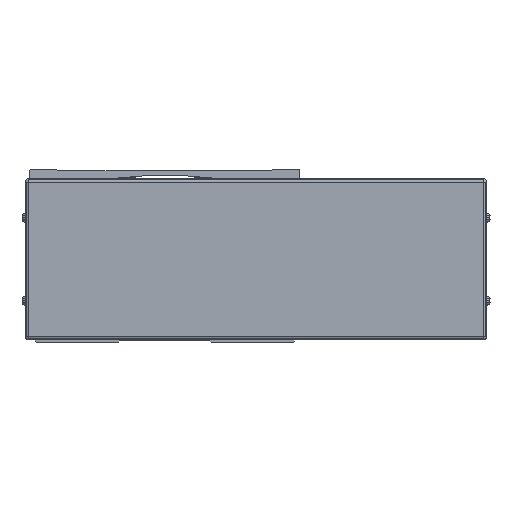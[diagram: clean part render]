
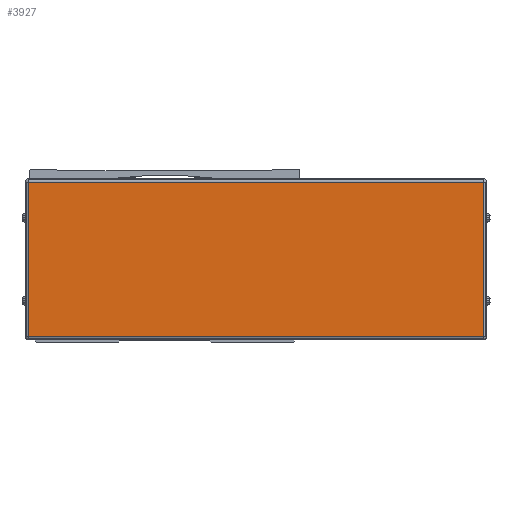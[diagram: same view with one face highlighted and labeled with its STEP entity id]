
A CAD part, front view. The second image highlights one B-rep face of the part: STEP entity #3927.
In plain terms, the highlighted planar face has unit normal (0, -1, 0).
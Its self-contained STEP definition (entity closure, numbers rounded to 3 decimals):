
#3927=ADVANCED_FACE('',(#9159),#9160,.T.);
#9159=FACE_OUTER_BOUND('',#16924,.T.);
#9160=PLANE('',#16925);
#16924=EDGE_LOOP('',(#29902,#29903,#29904,#29905));
#16925=AXIS2_PLACEMENT_3D('',#29906,#29907,#29908);
#29902=ORIENTED_EDGE('',*,*,#46314,.F.);
#29903=ORIENTED_EDGE('',*,*,#42057,.F.);
#29904=ORIENTED_EDGE('',*,*,#46315,.F.);
#29905=ORIENTED_EDGE('',*,*,#46316,.F.);
#29906=CARTESIAN_POINT('',(-545.,-222.778,-2.));
#29907=DIRECTION('',(0.,-1.0,0.));
#29908=DIRECTION('',(1.0,0.,0.));
#42057=EDGE_CURVE('',#49890,#49892,#49893,.T.);
#46314=EDGE_CURVE('',#49892,#56928,#56929,.T.);
#46315=EDGE_CURVE('',#55541,#49890,#56930,.T.);
#46316=EDGE_CURVE('',#56928,#55541,#56931,.T.);
#49890=VERTEX_POINT('',#61375);
#49892=VERTEX_POINT('',#61377);
#49893=LINE('',#61378,#61379);
#55541=VERTEX_POINT('',#70202);
#56928=VERTEX_POINT('',#72315);
#56929=LINE('',#72316,#72317);
#56930=LINE('',#72318,#72319);
#56931=LINE('',#72320,#72321);
#61375=CARTESIAN_POINT('',(-682.1,-222.778,-48.5));
#61377=CARTESIAN_POINT('',(-682.1,-222.778,44.5));
#61378=CARTESIAN_POINT('',(-682.1,-222.778,-2.));
#61379=VECTOR('',#78412,10.0);
#70202=CARTESIAN_POINT('',(-407.9,-222.778,-48.5));
#72315=CARTESIAN_POINT('',(-407.9,-222.778,44.5));
#72316=CARTESIAN_POINT('',(-545.,-222.778,44.5));
#72317=VECTOR('',#83761,10.0);
#72318=CARTESIAN_POINT('',(-545.,-222.778,-48.5));
#72319=VECTOR('',#83762,10.0);
#72320=CARTESIAN_POINT('',(-407.9,-222.778,-2.));
#72321=VECTOR('',#83763,10.0);
#78412=DIRECTION('',(0.,0.,1.0));
#83761=DIRECTION('',(1.0,0.,0.));
#83762=DIRECTION('',(-1.0,0.,0.));
#83763=DIRECTION('',(0.,0.,-1.0));
